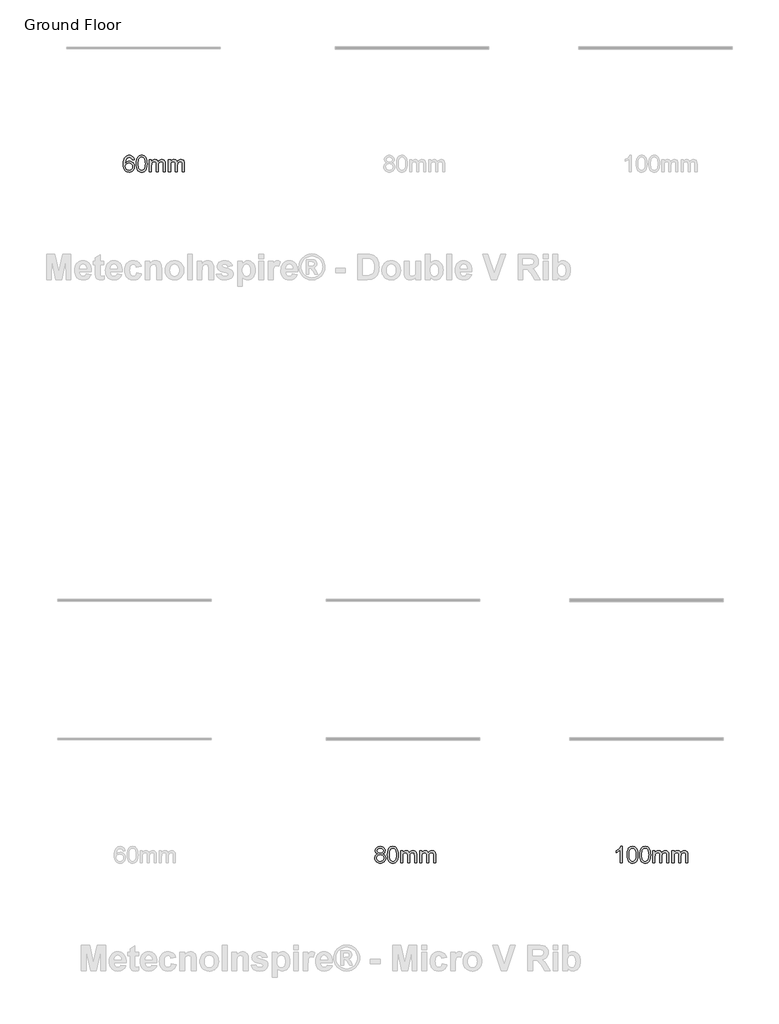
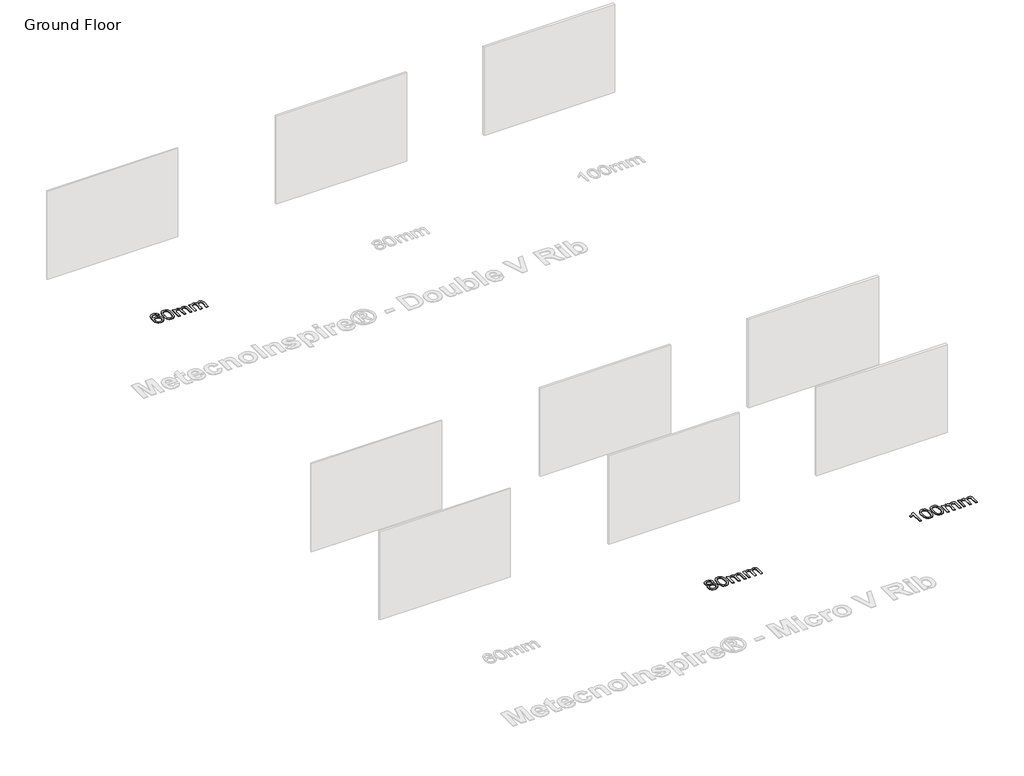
# One storey, part 8 of 14: 3 proxies.
"""IFC4 building model written with IfcOpenShell, lengths in millimetres."""

from ifc_helpers import new_model, si_unit, origin, origin_with_axes, place, context, project, spatial, polyline, outline, extrude, element, save

model = new_model("IFC4")

# Units and contexts
model_context = context("Model", 3, world=origin())
ifc_project = project(units=[si_unit("LENGTHUNIT", "METRE", prefix="MILLI")], contexts=[model_context])

# Site, building, storey
site = spatial("IfcSite", under=ifc_project)
building = spatial("IfcBuilding", under=site)
storey = spatial("IfcBuildingStorey", under=building, Name="Ground Floor", Elevation=0.0)

# Proxies
placement = place(None, origin())
element("IfcBuildingElementProxy", 1, Name="600mm Arial", ObjectType="600mm Arial", at=placement, inside=storey, context=model_context, shape_type="SweptSolid", body=[
    extrude(outline(polyline([(2240.452797, -48642.9517534), (2165.1105644, -48652.3695325), (2152.9704585, -48615.02951), (2136.5629215, -48589.5352877), (2120.3669167, -48575.8224863), (2102.3866842, -48566.0276282), (2082.622224, -48560.1507133), (2061.0735361, -48558.1917417), (2026.0511702, -48562.7534785), (1993.0889434, -48576.4386887), (1964.7804239, -48605.262243), (1941.6590405, -48644.9383162), (1932.622939, -48670.2439989), (1926.0424498, -48701.0587146), (1920.2483084, -48779.2152444), (1950.4698143, -48743.9537552), (1986.6877967, -48719.1033264), (2026.8789047, -48704.3696525), (2069.0197872, -48699.4584279), (2105.2193755, -48702.8153511), (2138.6230607, -48712.8861207), (2169.2308427, -48729.6707367), (2197.0427215, -48753.1691992), (2220.1549079, -48781.9835564), (2236.6636124, -48814.715857), (2246.5688351, -48851.3661007), (2249.870576, -48891.9342877), (2248.3162746, -48919.4012772), (2243.6533703, -48945.8841823), (2235.8818632, -48971.3830031), (2225.0017532, -48995.8977396), (2211.3993164, -49018.5132852), (2195.460829, -49038.3145336), (2177.1862908, -49055.3014848), (2156.5757021, -49069.4741386), (2134.070521, -49080.6439557), (2110.1122061, -49088.6223965), (2084.7007573, -49093.4094609), (2057.8361746, -49095.0051491), (2012.9223815, -49090.7745061), (1972.358793, -49078.0825773), (1936.1454091, -49056.9293626), (1904.2822298, -49027.314862), (1878.3051624, -48987.9882767), (1859.7501143, -48937.6988079), (1848.6170854, -48876.4464558), (1844.9060758, -48804.2312201), (1849.0263541, -48723.26959), (1861.3871891, -48654.1721543), (1881.9885809, -48596.9389129), (1895.3794855, -48572.771365), (1910.8305293, -48551.5698658), (1942.0913018, -48521.5047098), (1978.3368754, -48500.0295983), (2019.56725, -48487.1445314), (2065.7824257, -48482.8495091), (2100.4828949, -48485.5074565), (2131.8908202, -48493.4812988), (2160.0062017, -48506.7710358), (2184.8290393, -48525.3766678), (2205.6879484, -48548.6727951), (2221.9115444, -48576.0340185), (2233.4998273, -48607.4603379), (2240.452797, -48642.9517534)]), holes=[polyline([(1920.2483084, -48890.7570654), (1924.60771, -48924.1423564), (1937.6859149, -48956.0193313), (1957.9930011, -48983.4265399), (1984.0390463, -49003.4025323), (2015.4745628, -49015.5978204), (2051.9500626, -49019.6629165), (2078.1386622, -49017.5567921), (2101.6693143, -49011.2384188), (2122.542019, -49000.7077967), (2140.7567763, -48985.9649257), (2155.5318369, -48967.6076142), (2166.0854516, -48946.2336702), (2172.4176205, -48921.843094), (2174.5283434, -48894.4358853), (2172.4452116, -48868.100133), (2166.1958162, -48844.7166337), (2155.7801573, -48824.2853874), (2141.1982347, -48806.8063941), (2122.9282951, -48792.8038856), (2101.4485851, -48782.8020939), (2076.7591047, -48776.8010188), (2048.8598539, -48774.8006605), (2023.0207422, -48776.8010188), (1999.2141786, -48782.8020939), (1977.440163, -48792.8038856), (1957.6986955, -48806.8063941), (1941.3141511, -48824.0554611), (1929.6109051, -48843.7969287), (1922.5889576, -48866.0307968), (1920.2483084, -48890.7570654)])]), origin_with_axes(), (0.0, 0.0, 1.0), 20.0),
    extrude(outline(polyline([(2315.7950296, -48789.0744819), (2321.3316536, -48692.5974287), (2328.2524336, -48651.6843523), (2337.9415257, -48615.6549094), (2350.357543, -48584.2147944), (2365.4590989, -48557.0697016), (2383.2461934, -48534.2196312), (2403.7188264, -48515.6645831), (2426.9459759, -48501.3079882), (2452.9966197, -48491.0532776), (2481.8707578, -48484.9004512), (2513.5683902, -48482.8495091), (2559.995098, -48487.7055514), (2601.5657634, -48502.2736785), (2636.330612, -48525.983673), (2662.339869, -48558.2653181), (2681.9847676, -48598.8427022), (2697.6565406, -48647.4399138), (2707.9204482, -48709.1521184), (2711.3417508, -48789.0744819), (2705.8603091, -48884.9997121), (2699.0085069, -48925.7748328), (2689.4159839, -48961.7582904), (2677.0965356, -48993.212201), (2662.0639575, -49020.3986805), (2644.3182498, -49043.3177288), (2623.8594123, -49061.9693459), (2600.6046717, -49076.4225098), (2574.4712545, -49086.7461983), (2545.4591606, -49092.9404114), (2513.5683902, -49095.0051491), (2472.0713011, -49091.4182996), (2435.2831016, -49080.6577513), (2403.2037916, -49062.723504), (2375.8333712, -49037.6155578), (2349.5665967, -48992.2281167), (2330.804615, -48935.675457), (2319.5474259, -48867.9575787), (2315.7950296, -48789.0744819)]), holes=[polyline([(2391.1372622, -48788.9273291), (2393.3445542, -48854.4241198), (2399.9664301, -48907.4405138), (2411.0028899, -48947.9765112), (2426.4539337, -48976.0321118), (2445.1423391, -48995.1205889), (2465.8908836, -49008.7552153), (2488.6995673, -49016.9359912), (2513.5683902, -49019.6629165), (2538.4372131, -49016.9267941), (2561.2458968, -49008.7184271), (2581.9944413, -48995.0378154), (2600.6828466, -48975.884959), (2616.1338904, -48947.7833731), (2627.1703503, -48907.2565728), (2633.7922262, -48854.3045582), (2635.9995182, -48788.9273291), (2633.8658026, -48725.1641823), (2627.4646559, -48673.0812888), (2616.796078, -48632.6786487), (2601.860069, -48603.9562619), (2583.4843634, -48583.9342843), (2562.4966955, -48569.6328718), (2538.8970656, -48561.0520242), (2512.6854734, -48558.1917417), (2487.9454092, -48560.7117334), (2465.5230016, -48568.2717084), (2445.4182506, -48580.8716667), (2427.6311561, -48598.5116084), (2411.6650775, -48629.781578), (2400.2607357, -48671.9408546), (2393.4181306, -48724.9894383), (2391.1372622, -48788.9273291)])]), origin_with_axes(), (0.0, 0.0, 1.0), 20.0),
    extrude(outline(polyline([(2796.1017625, -49085.58737), (2796.1017625, -48642.9517534), (2871.4439951, -48642.9517534), (2871.4439951, -48715.7923885), (2894.105526, -48682.333521), (2923.24178, -48656.1219288), (2957.8594758, -48639.180963), (2996.9653319, -48633.5339743), (3038.8670911, -48639.2913276), (3056.7001708, -48646.4880191), (3072.4547173, -48656.5633872), (3097.5442693, -48684.2097192), (3113.9518063, -48721.0898892), (3141.4141973, -48682.7841764), (3172.7393491, -48655.422953), (3207.927262, -48639.006219), (3246.9779358, -48633.5339743), (3277.1396609, -48635.8102442), (3303.6133689, -48642.6390537), (3326.39906, -48654.0204029), (3345.4967341, -48669.9542919), (3360.5936915, -48690.6246615), (3371.3772324, -48716.2154528), (3377.847357, -48746.7266657), (3380.0040652, -48782.1583004), (3380.0040652, -49085.58737), (3304.6618326, -49085.58737), (3304.6618326, -48814.531916), (3302.9143931, -48776.9527702), (3297.6720747, -48751.6240948), (3287.8496254, -48734.2784587), (3272.3617934, -48720.6484308), (3252.4409834, -48711.8192629), (3229.3196, -48708.8762069), (3207.9686487, -48710.7616022), (3188.5030926, -48716.4177879), (3170.9229318, -48725.844764), (3155.2281662, -48739.0425306), (3142.3201067, -48756.3973637), (3133.1000642, -48778.2955394), (3127.5680387, -48804.7370578), (3125.7240302, -48835.7219189), (3125.7240302, -49085.58737), (3050.3817976, -49085.58737), (3050.3817976, -48806.1442065), (3046.0223959, -48763.5434714), (3040.5731439, -48746.8232348), (3032.944191, -48733.1564186), (3022.8320346, -48722.533826), (3009.9331722, -48714.9462599), (2994.2476036, -48710.3937202), (2975.7753289, -48708.8762069), (2946.7494395, -48712.9229089), (2920.0044185, -48725.0630147), (2897.9314987, -48745.0022189), (2882.9219133, -48772.4462157), (2874.3134747, -48810.5220022), (2871.4439951, -48862.3565753), (2871.4439951, -49085.58737), (2796.1017625, -49085.58737)])), origin_with_axes(), (0.0, 0.0, 1.0), 20.0),
    extrude(outline(polyline([(3493.0174141, -49085.58737), (3493.0174141, -48642.9517534), (3568.3596468, -48642.9517534), (3568.3596468, -48715.7923885), (3591.0211777, -48682.333521), (3620.1574317, -48656.1219288), (3654.7751274, -48639.180963), (3693.8809835, -48633.5339743), (3735.7827428, -48639.2913276), (3753.6158225, -48646.4880191), (3769.3703689, -48656.5633872), (3794.459921, -48684.2097192), (3810.867458, -48721.0898892), (3838.3298489, -48682.7841764), (3869.6550008, -48655.422953), (3904.8429136, -48639.006219), (3943.8935874, -48633.5339743), (3974.0553125, -48635.8102442), (4000.5290206, -48642.6390537), (4023.3147117, -48654.0204029), (4042.4123857, -48669.9542919), (4057.5093431, -48690.6246615), (4068.2928841, -48716.2154528), (4074.7630087, -48746.7266657), (4076.9197169, -48782.1583004), (4076.9197169, -49085.58737), (4001.5774843, -49085.58737), (4001.5774843, -48814.531916), (3999.8300448, -48776.9527702), (3994.5877264, -48751.6240948), (3984.7652771, -48734.2784587), (3969.2774451, -48720.6484308), (3949.3566351, -48711.8192629), (3926.2352517, -48708.8762069), (3904.8843004, -48710.7616022), (3885.4187443, -48716.4177879), (3867.8385835, -48725.844764), (3852.1438178, -48739.0425306), (3839.2357583, -48756.3973637), (3830.0157158, -48778.2955394), (3824.4836903, -48804.7370578), (3822.6396818, -48835.7219189), (3822.6396818, -49085.58737), (3747.2974492, -49085.58737), (3747.2974492, -48806.1442065), (3742.9380476, -48763.5434714), (3737.4887955, -48746.8232348), (3729.8598426, -48733.1564186), (3719.7476863, -48722.533826), (3706.8488238, -48714.9462599), (3691.1632553, -48710.3937202), (3672.6909806, -48708.8762069), (3643.6650912, -48712.9229089), (3616.9200701, -48725.0630147), (3594.8471504, -48745.0022189), (3579.837565, -48772.4462157), (3571.2291263, -48810.5220022), (3568.3596468, -48862.3565753), (3568.3596468, -49085.58737), (3493.0174141, -49085.58737)])), origin_with_axes(), (0.0, 0.0, 1.0), 20.0),
])
element("IfcBuildingElementProxy", 2, Name="600mm Arial", ObjectType="600mm Arial", at=placement, inside=storey, context=model_context, shape_type="SweptSolid", body=[
    extrude(outline(polyline([(11141.1435647, -74002.9571424), (11100.8053039, -73983.0915146), (11085.1473265, -73970.5099504), (11072.4967844, -73956.1625526), (11055.7765477, -73922.7220792), (11050.2031355, -73883.3219176), (11053.2381619, -73852.5945739), (11062.3432413, -73824.4240101), (11077.5183736, -73798.8102262), (11098.7635588, -73775.7532222), (11125.0579244, -73756.6969348), (11155.3805979, -73743.085301), (11189.7315792, -73734.9183207), (11228.1108683, -73732.1959939), (11266.6740985, -73734.9827), (11301.2825972, -73743.3428184), (11331.9363644, -73757.276349), (11358.6354002, -73776.7832917), (11380.2668615, -73800.2909512), (11395.7179053, -73826.2266319), (11404.9885316, -73854.5903337), (11408.0787404, -73885.3820567), (11402.5789046, -73923.5130255), (11386.0793971, -73956.3832818), (11373.6587812, -73970.6341106), (11358.3962769, -73983.1466969), (11319.3456031, -74002.9571424), (11344.1086599, -74013.492363), (11365.7171286, -74026.851078), (11384.1710092, -74043.0332872), (11399.4703017, -74062.0389908), (11411.4770503, -74083.4451244), (11420.0532993, -74106.8286237), (11425.1990487, -74132.1894888), (11426.9142985, -74159.5277195), (11423.5113901, -74197.1068653), (11413.3026647, -74231.5590142), (11396.2881224, -74262.8841661), (11372.4677632, -74291.082321), (11343.0923859, -74314.3876454), (11309.4127893, -74331.0343057), (11271.4289733, -74341.0223019), (11229.1409379, -74344.3516339), (11186.8529026, -74341.0085063), (11148.8690866, -74330.9791234), (11115.1894899, -74314.2634852), (11085.8141126, -74290.8615918), (11061.9937534, -74262.4657003), (11044.9792111, -74230.7680679), (11034.7704858, -74195.7686946), (11031.3675773, -74157.4675804), (11033.151805, -74128.8831493), (11038.504488, -74102.7267395), (11047.4256264, -74078.9983508), (11059.9152201, -74057.6979833), (11075.6973577, -74039.211913), (11094.4961277, -74023.9264161), (11116.31153, -74011.8414926), (11141.1435647, -74002.9571424)]), holes=[polyline([(11106.7098099, -74154.81883), (11109.855201, -74183.6423843), (11119.2913742, -74211.5462336), (11136.7105866, -74235.8816276), (11163.8050956, -74253.9998159), (11196.2522876, -74265.2570049), (11229.7295491, -74269.0094013), (11256.9712109, -74267.0366341), (11281.0122992, -74261.1183325), (11301.8528143, -74251.2544965), (11319.4927559, -74237.4451261), (11333.5274541, -74220.5915322), (11343.5522384, -74201.5950257), (11349.567109, -74180.4556065), (11351.5720659, -74157.1732748), (11349.5027297, -74133.5184625), (11343.294721, -74111.9973658), (11332.9480399, -74092.6099846), (11318.4626864, -74075.356319), (11300.3444981, -74061.1928622), (11279.0993129, -74051.0761074), (11254.7271307, -74045.0060544), (11227.2279516, -74042.9827035), (11200.3863615, -74044.9784633), (11176.6625713, -74050.9657428), (11156.0565811, -74060.9445419), (11138.5683907, -74074.9148606), (11124.6302616, -74091.8834177), (11114.6744551, -74110.8569316), (11108.7009712, -74131.8354023), (11106.7098099, -74154.81883)]), polyline([(11125.5453681, -73885.5292095), (11127.2146326, -73902.8012692), (11132.2224263, -73918.4178599), (11140.5687491, -73932.3789816), (11152.2536009, -73944.6846343), (11167.1298291, -73954.7278128), (11185.0502808, -73961.9015117), (11206.014956, -73966.2057311), (11230.0238547, -73967.6404708), (11253.4395437, -73966.2149281), (11273.9489649, -73961.9382999), (11291.5521184, -73954.8105863), (11306.2490041, -73944.8317871), (11317.837287, -73932.7836518), (11326.1146319, -73919.4479295), (11331.0810388, -73904.8246202), (11332.7365078, -73888.9137239), (11331.0258565, -73872.3820267), (11325.8939027, -73857.22069), (11317.3406463, -73843.4297137), (11305.3660873, -73831.0090978), (11290.3381078, -73820.7405916), (11272.6245898, -73813.4059444), (11252.2255331, -73809.005156), (11229.1409379, -73807.5382265), (11205.8770003, -73808.9729663), (11185.3813746, -73813.2771857), (11167.654061, -73820.4508846), (11152.6950593, -73830.494063), (11140.8170694, -73842.5421984), (11132.3327909, -73855.7307679), (11127.2422238, -73870.0597716), (11125.5453681, -73885.5292095)])]), origin_with_axes(), (0.0, 0.0, 1.0), 20.0),
    extrude(outline(polyline([(11492.8387521, -74038.4209667), (11498.3753761, -73941.9439135), (11505.2961561, -73901.0308371), (11514.9852482, -73865.0013942), (11527.4012655, -73833.5612792), (11542.5028214, -73806.4161865), (11560.2899159, -73783.566116), (11580.7625489, -73765.0110679), (11603.9896984, -73750.654473), (11630.0403422, -73740.3997624), (11658.9144803, -73734.2469361), (11690.6121127, -73732.1959939), (11737.0388205, -73737.0520363), (11778.6094859, -73751.6201633), (11813.3743345, -73775.3301579), (11839.3835915, -73807.6118029), (11859.0284901, -73848.189187), (11874.7002631, -73896.7863986), (11884.9641707, -73958.4986033), (11888.3854733, -74038.4209667), (11882.9040316, -74134.346197), (11876.0522294, -74175.1213176), (11866.4597064, -74211.1047753), (11854.1402581, -74242.5586858), (11839.10768, -74269.7451653), (11821.3619723, -74292.6642136), (11800.9031348, -74311.3158307), (11777.6483942, -74325.7689946), (11751.514977, -74336.0926831), (11722.5028831, -74342.2868962), (11690.6121127, -74344.3516339), (11649.1150236, -74340.7647845), (11612.3268241, -74330.0042361), (11580.2475141, -74312.0699888), (11552.8770937, -74286.9620427), (11526.6103192, -74241.5746015), (11507.8483375, -74185.0219418), (11496.5911484, -74117.3040635), (11492.8387521, -74038.4209667)]), holes=[polyline([(11568.1809847, -74038.2738139), (11570.3882767, -74103.7706046), (11577.0101526, -74156.7869987), (11588.0466124, -74197.322996), (11603.4976562, -74225.3785967), (11622.1860616, -74244.4670737), (11642.9346061, -74258.1017001), (11665.7432898, -74266.282476), (11690.6121127, -74269.0094013), (11715.4809356, -74266.273279), (11738.2896193, -74258.0649119), (11759.0381638, -74244.3843002), (11777.7265691, -74225.2314439), (11793.1776129, -74197.129858), (11804.2140728, -74156.6030577), (11810.8359487, -74103.651043), (11813.0432407, -74038.2738139), (11810.9095251, -73974.5106671), (11804.5083784, -73922.4277736), (11793.8398005, -73882.0251335), (11778.9037915, -73853.3027467), (11760.5280859, -73833.2807692), (11739.540418, -73818.9793566), (11715.940788, -73810.3985091), (11689.7291959, -73807.5382265), (11664.9891317, -73810.0582182), (11642.5667241, -73817.6181932), (11622.4619731, -73830.2181515), (11604.6748786, -73847.8580932), (11588.7088, -73879.1280628), (11577.3044582, -73921.2873395), (11570.4618531, -73974.3359232), (11568.1809847, -74038.2738139)])]), origin_with_axes(), (0.0, 0.0, 1.0), 20.0),
    extrude(outline(polyline([(11973.145485, -74334.9338548), (11973.145485, -73892.2982382), (12048.4877176, -73892.2982382), (12048.4877176, -73965.1388733), (12071.1492485, -73931.6800058), (12100.2855025, -73905.4684137), (12134.9031983, -73888.5274478), (12174.0090543, -73882.8804592), (12215.9108136, -73888.6378124), (12233.7438933, -73895.8345039), (12249.4984397, -73905.9098721), (12274.5879918, -73933.556204), (12290.9955288, -73970.436374), (12318.4579197, -73932.1306613), (12349.7830716, -73904.7694379), (12384.9709845, -73888.3527038), (12424.0216583, -73882.8804592), (12454.1833833, -73885.156729), (12480.6570914, -73891.9855385), (12503.4427825, -73903.3668878), (12522.5404566, -73919.3007767), (12537.6374139, -73939.9711463), (12548.4209549, -73965.5619376), (12554.8910795, -73996.0731505), (12557.0477877, -74031.5047852), (12557.0477877, -74334.9338548), (12481.7055551, -74334.9338548), (12481.7055551, -74063.8784008), (12479.9581156, -74026.299255), (12474.7157972, -74000.9705796), (12464.8933479, -73983.6249435), (12449.4055159, -73969.9949156), (12429.4847059, -73961.1657477), (12406.3633225, -73958.2226918), (12385.0123712, -73960.108087), (12365.5468151, -73965.7642727), (12347.9666543, -73975.1912488), (12332.2718887, -73988.3890154), (12319.3638292, -74005.7438485), (12310.1437867, -74027.6420243), (12304.6117612, -74054.0835427), (12302.7677527, -74085.0684037), (12302.7677527, -74334.9338548), (12227.42552, -74334.9338548), (12227.42552, -74055.4906913), (12223.0661184, -74012.8899563), (12217.6168663, -73996.1697196), (12209.9879135, -73982.5029035), (12199.8757571, -73971.8803108), (12186.9768947, -73964.2927447), (12171.2913261, -73959.740205), (12152.8190514, -73958.2226918), (12123.793162, -73962.2693937), (12097.0481409, -73974.4094996), (12074.9752212, -73994.3487037), (12059.9656358, -74021.7927005), (12051.3571971, -74059.868487), (12048.4877176, -74111.7030602), (12048.4877176, -74334.9338548), (11973.145485, -74334.9338548)])), origin_with_axes(), (0.0, 0.0, 1.0), 20.0),
    extrude(outline(polyline([(12670.0611366, -74334.9338548), (12670.0611366, -73892.2982382), (12745.4033692, -73892.2982382), (12745.4033692, -73965.1388733), (12768.0649002, -73931.6800058), (12797.2011542, -73905.4684137), (12831.8188499, -73888.5274478), (12870.924706, -73882.8804592), (12912.8264653, -73888.6378124), (12930.659545, -73895.8345039), (12946.4140914, -73905.9098721), (12971.5036435, -73933.556204), (12987.9111805, -73970.436374), (13015.3735714, -73932.1306613), (13046.6987233, -73904.7694379), (13081.8866361, -73888.3527038), (13120.9373099, -73882.8804592), (13151.099035, -73885.156729), (13177.5727431, -73891.9855385), (13200.3584342, -73903.3668878), (13219.4561082, -73919.3007767), (13234.5530656, -73939.9711463), (13245.3366066, -73965.5619376), (13251.8067312, -73996.0731505), (13253.9634394, -74031.5047852), (13253.9634394, -74334.9338548), (13178.6212068, -74334.9338548), (13178.6212068, -74063.8784008), (13176.8737673, -74026.299255), (13171.6314489, -74000.9705796), (13161.8089996, -73983.6249435), (13146.3211676, -73969.9949156), (13126.4003576, -73961.1657477), (13103.2789742, -73958.2226918), (13081.9280229, -73960.108087), (13062.4624668, -73965.7642727), (13044.8823059, -73975.1912488), (13029.1875403, -73988.3890154), (13016.2794808, -74005.7438485), (13007.0594383, -74027.6420243), (13001.5274128, -74054.0835427), (12999.6834043, -74085.0684037), (12999.6834043, -74334.9338548), (12924.3411717, -74334.9338548), (12924.3411717, -74055.4906913), (12919.9817701, -74012.8899563), (12914.532518, -73996.1697196), (12906.9035651, -73982.5029035), (12896.7914088, -73971.8803108), (12883.8925463, -73964.2927447), (12868.2069778, -73959.740205), (12849.7347031, -73958.2226918), (12820.7088137, -73962.2693937), (12793.9637926, -73974.4094996), (12771.8908729, -73994.3487037), (12756.8812875, -74021.7927005), (12748.2728488, -74059.868487), (12745.4033692, -74111.7030602), (12745.4033692, -74334.9338548), (12670.0611366, -74334.9338548)])), origin_with_axes(), (0.0, 0.0, 1.0), 20.0),
])
element("IfcBuildingElementProxy", 3, Name="600mm Arial", ObjectType="600mm Arial", at=placement, inside=storey, context=model_context, shape_type="SweptSolid", body=[
    extrude(outline(polyline([(20070.5052979, -74334.9338548), (19995.1630653, -74334.9338548), (19995.1630653, -73865.2221234), (19963.7091547, -73890.6611634), (19923.7939582, -73916.0634151), (19881.892199, -73938.2650935), (19844.4786001, -73954.1024134), (19844.4786001, -73882.8804592), (19903.652419, -73850.6907846), (19954.916775, -73812.3942689), (19995.3286122, -73771.669732), (20021.9448746, -73732.1959939), (20070.5052979, -73732.1959939), (20070.5052979, -74334.9338548)])), origin_with_axes(), (0.0, 0.0, 1.0), 20.0),
    extrude(outline(polyline([(20249.4431004, -74038.4209667), (20254.9797244, -73941.9439135), (20261.9005044, -73901.0308371), (20271.5895965, -73865.0013942), (20284.0056138, -73833.5612792), (20299.1071697, -73806.4161865), (20316.8942642, -73783.566116), (20337.3668972, -73765.0110679), (20360.5940467, -73750.654473), (20386.6446905, -73740.3997624), (20415.5188286, -73734.2469361), (20447.216461, -73732.1959939), (20493.6431688, -73737.0520363), (20535.2138342, -73751.6201633), (20569.9786828, -73775.3301579), (20595.9879398, -73807.6118029), (20615.6328384, -73848.189187), (20631.3046114, -73896.7863986), (20641.568519, -73958.4986033), (20644.9898216, -74038.4209667), (20639.5083799, -74134.346197), (20632.6565777, -74175.1213176), (20623.0640547, -74211.1047753), (20610.7446064, -74242.5586858), (20595.7120283, -74269.7451653), (20577.9663206, -74292.6642136), (20557.5074831, -74311.3158307), (20534.2527425, -74325.7689946), (20508.1193253, -74336.0926831), (20479.1072314, -74342.2868962), (20447.216461, -74344.3516339), (20405.7193719, -74340.7647845), (20368.9311724, -74330.0042361), (20336.8518624, -74312.0699888), (20309.481442, -74286.9620427), (20283.2146675, -74241.5746015), (20264.4526858, -74185.0219418), (20253.1954967, -74117.3040635), (20249.4431004, -74038.4209667)]), holes=[polyline([(20324.785333, -74038.2738139), (20326.992625, -74103.7706046), (20333.6145009, -74156.7869987), (20344.6509607, -74197.322996), (20360.1020045, -74225.3785967), (20378.7904099, -74244.4670737), (20399.5389544, -74258.1017001), (20422.3476381, -74266.282476), (20447.216461, -74269.0094013), (20472.0852839, -74266.273279), (20494.8939676, -74258.0649119), (20515.6425121, -74244.3843002), (20534.3309174, -74225.2314439), (20549.7819612, -74197.129858), (20560.8184211, -74156.6030577), (20567.440297, -74103.651043), (20569.647589, -74038.2738139), (20567.5138734, -73974.5106671), (20561.1127267, -73922.4277736), (20550.4441488, -73882.0251335), (20535.5081398, -73853.3027467), (20517.1324342, -73833.2807692), (20496.1447663, -73818.9793566), (20472.5451364, -73810.3985091), (20446.3335442, -73807.5382265), (20421.59348, -73810.0582182), (20399.1710724, -73817.6181932), (20379.0663214, -73830.2181515), (20361.2792269, -73847.8580932), (20345.3131483, -73879.1280628), (20333.9088065, -73921.2873395), (20327.0662014, -73974.3359232), (20324.785333, -74038.2738139)])]), origin_with_axes(), (0.0, 0.0, 1.0), 20.0),
    extrude(outline(polyline([(20710.9142751, -74038.4209667), (20716.4508992, -73941.9439135), (20723.3716792, -73901.0308371), (20733.0607712, -73865.0013942), (20745.4767886, -73833.5612792), (20760.5783445, -73806.4161865), (20778.3654389, -73783.566116), (20798.838072, -73765.0110679), (20822.0652214, -73750.654473), (20848.1158652, -73740.3997624), (20876.9900033, -73734.2469361), (20908.6876357, -73732.1959939), (20955.1143435, -73737.0520363), (20996.685009, -73751.6201633), (21031.4498575, -73775.3301579), (21057.4591146, -73807.6118029), (21077.1040131, -73848.189187), (21092.7757861, -73896.7863986), (21103.0396938, -73958.4986033), (21106.4609963, -74038.4209667), (21100.9795546, -74134.346197), (21094.1277525, -74175.1213176), (21084.5352294, -74211.1047753), (21072.2157811, -74242.5586858), (21057.1832031, -74269.7451653), (21039.4374953, -74292.6642136), (21018.9786579, -74311.3158307), (20995.7239173, -74325.7689946), (20969.5905, -74336.0926831), (20940.5784062, -74342.2868962), (20908.6876357, -74344.3516339), (20867.1905467, -74340.7647845), (20830.4023472, -74330.0042361), (20798.3230372, -74312.0699888), (20770.9526167, -74286.9620427), (20744.6858423, -74241.5746015), (20725.9238605, -74185.0219418), (20714.6666715, -74117.3040635), (20710.9142751, -74038.4209667)]), holes=[polyline([(20786.2565077, -74038.2738139), (20788.4637997, -74103.7706046), (20795.0856756, -74156.7869987), (20806.1221355, -74197.322996), (20821.5731793, -74225.3785967), (20840.2615846, -74244.4670737), (20861.0101292, -74258.1017001), (20883.8188129, -74266.282476), (20908.6876357, -74269.0094013), (20933.5564586, -74266.273279), (20956.3651423, -74258.0649119), (20977.1136868, -74244.3843002), (20995.8020922, -74225.2314439), (21011.253136, -74197.129858), (21022.2895958, -74156.6030577), (21028.9114718, -74103.651043), (21031.1187637, -74038.2738139), (21028.9850482, -73974.5106671), (21022.5839014, -73922.4277736), (21011.9153236, -73882.0251335), (20996.9793146, -73853.3027467), (20978.6036089, -73833.2807692), (20957.6159411, -73818.9793566), (20934.0163111, -73810.3985091), (20907.8047189, -73807.5382265), (20883.0646548, -73810.0582182), (20860.6422472, -73817.6181932), (20840.5374961, -73830.2181515), (20822.7504017, -73847.8580932), (20806.7843231, -73879.1280628), (20795.3799812, -73921.2873395), (20788.5373761, -73974.3359232), (20786.2565077, -74038.2738139)])]), origin_with_axes(), (0.0, 0.0, 1.0), 20.0),
    extrude(outline(polyline([(21191.221008, -74334.9338548), (21191.221008, -73892.2982382), (21266.5632406, -73892.2982382), (21266.5632406, -73965.1388733), (21289.2247715, -73931.6800058), (21318.3610256, -73905.4684137), (21352.9787213, -73888.5274478), (21392.0845774, -73882.8804592), (21433.9863366, -73888.6378124), (21451.8194164, -73895.8345039), (21467.5739628, -73905.9098721), (21492.6635149, -73933.556204), (21509.0710519, -73970.436374), (21536.5334428, -73932.1306613), (21567.8585947, -73904.7694379), (21603.0465075, -73888.3527038), (21642.0971813, -73882.8804592), (21672.2589064, -73885.156729), (21698.7326145, -73891.9855385), (21721.5183056, -73903.3668878), (21740.6159796, -73919.3007767), (21755.712937, -73939.9711463), (21766.496478, -73965.5619376), (21772.9666026, -73996.0731505), (21775.1233108, -74031.5047852), (21775.1233108, -74334.9338548), (21699.7810782, -74334.9338548), (21699.7810782, -74063.8784008), (21698.0336387, -74026.299255), (21692.7913203, -74000.9705796), (21682.968871, -73983.6249435), (21667.481039, -73969.9949156), (21647.5602289, -73961.1657477), (21624.4388456, -73958.2226918), (21603.0878943, -73960.108087), (21583.6223382, -73965.7642727), (21566.0421773, -73975.1912488), (21550.3474117, -73988.3890154), (21537.4393522, -74005.7438485), (21528.2193097, -74027.6420243), (21522.6872842, -74054.0835427), (21520.8432757, -74085.0684037), (21520.8432757, -74334.9338548), (21445.5010431, -74334.9338548), (21445.5010431, -74055.4906913), (21441.1416415, -74012.8899563), (21435.6923894, -73996.1697196), (21428.0634365, -73982.5029035), (21417.9512802, -73971.8803108), (21405.0524177, -73964.2927447), (21389.3668492, -73959.740205), (21370.8945745, -73958.2226918), (21341.8686851, -73962.2693937), (21315.123664, -73974.4094996), (21293.0507443, -73994.3487037), (21278.0411589, -74021.7927005), (21269.4327202, -74059.868487), (21266.5632406, -74111.7030602), (21266.5632406, -74334.9338548), (21191.221008, -74334.9338548)])), origin_with_axes(), (0.0, 0.0, 1.0), 20.0),
    extrude(outline(polyline([(21888.1366597, -74334.9338548), (21888.1366597, -73892.2982382), (21963.4788923, -73892.2982382), (21963.4788923, -73965.1388733), (21986.1404232, -73931.6800058), (22015.2766772, -73905.4684137), (22049.894373, -73888.5274478), (22089.0002291, -73882.8804592), (22130.9019883, -73888.6378124), (22148.735068, -73895.8345039), (22164.4896145, -73905.9098721), (22189.5791665, -73933.556204), (22205.9867035, -73970.436374), (22233.4490945, -73932.1306613), (22264.7742464, -73904.7694379), (22299.9621592, -73888.3527038), (22339.012833, -73882.8804592), (22369.1745581, -73885.156729), (22395.6482661, -73891.9855385), (22418.4339572, -73903.3668878), (22437.5316313, -73919.3007767), (22452.6285887, -73939.9711463), (22463.4121297, -73965.5619376), (22469.8822542, -73996.0731505), (22472.0389624, -74031.5047852), (22472.0389624, -74334.9338548), (22396.6967298, -74334.9338548), (22396.6967298, -74063.8784008), (22394.9492903, -74026.299255), (22389.7069719, -74000.9705796), (22379.8845226, -73983.6249435), (22364.3966907, -73969.9949156), (22344.4758806, -73961.1657477), (22321.3544972, -73958.2226918), (22300.0035459, -73960.108087), (22280.5379898, -73965.7642727), (22262.957829, -73975.1912488), (22247.2630634, -73988.3890154), (22234.3550039, -74005.7438485), (22225.1349614, -74027.6420243), (22219.6029359, -74054.0835427), (22217.7589274, -74085.0684037), (22217.7589274, -74334.9338548), (22142.4166948, -74334.9338548), (22142.4166948, -74055.4906913), (22138.0572931, -74012.8899563), (22132.6080411, -73996.1697196), (22124.9790882, -73982.5029035), (22114.8669318, -73971.8803108), (22101.9680694, -73964.2927447), (22086.2825008, -73959.740205), (22067.8102261, -73958.2226918), (22038.7843367, -73962.2693937), (22012.0393157, -73974.4094996), (21989.966396, -73994.3487037), (21974.9568106, -74021.7927005), (21966.3483719, -74059.868487), (21963.4788923, -74111.7030602), (21963.4788923, -74334.9338548), (21888.1366597, -74334.9338548)])), origin_with_axes(), (0.0, 0.0, 1.0), 20.0),
])

save(model, "model.ifc")
